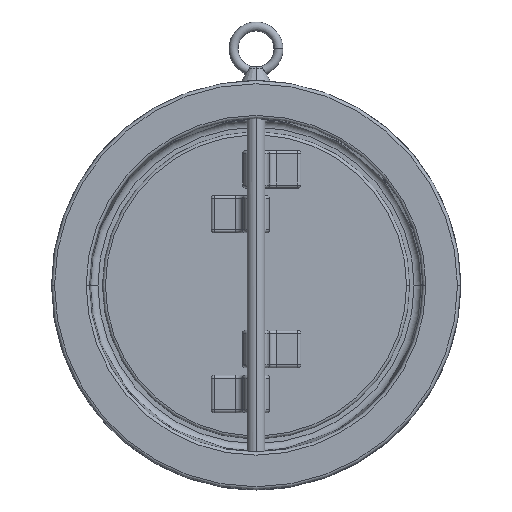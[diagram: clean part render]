
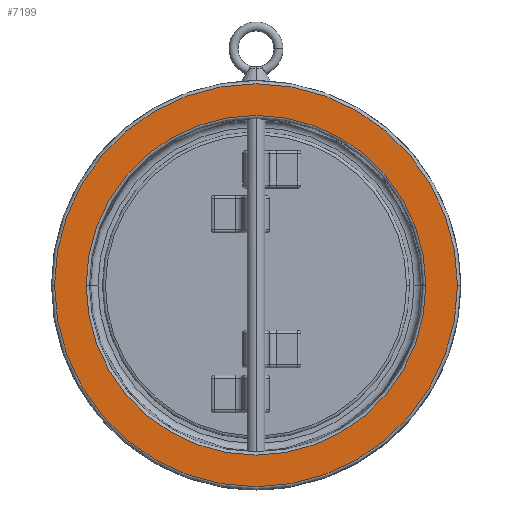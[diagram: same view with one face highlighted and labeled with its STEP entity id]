
A CAD part, top view. The second image highlights one B-rep face of the part: STEP entity #7199.
In plain terms, the highlighted planar face has unit normal (0, 0, 1).
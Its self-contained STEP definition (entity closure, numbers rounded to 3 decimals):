
#64 = EDGE_LOOP ( 'NONE', ( #2435, #7381 ) ) ;
#187 = DIRECTION ( 'NONE',  ( 1., 0., 0. ) ) ;
#269 = CARTESIAN_POINT ( 'NONE',  ( 0., 0., 44.5 ) ) ;
#834 = AXIS2_PLACEMENT_3D ( 'NONE', #1169, #3407, #187 ) ;
#1169 = CARTESIAN_POINT ( 'NONE',  ( 0., 0., 44.5 ) ) ;
#1681 = FACE_OUTER_BOUND ( 'NONE', #64, .T. ) ;
#1851 = EDGE_CURVE ( 'NONE', #10750, #7251, #7306, .T. ) ;
#1892 = CARTESIAN_POINT ( 'NONE',  ( 113.381, 0., 44.5 ) ) ;
#2145 = VERTEX_POINT ( 'NONE', #13586 ) ;
#2215 = ORIENTED_EDGE ( 'NONE', *, *, #11628, .T. ) ;
#2435 = ORIENTED_EDGE ( 'NONE', *, *, #6184, .T. ) ;
#2478 = DIRECTION ( 'NONE',  ( 1., 0., 0. ) ) ;
#3135 = CARTESIAN_POINT ( 'NONE',  ( 0., 0., 44.5 ) ) ;
#3145 = AXIS2_PLACEMENT_3D ( 'NONE', #269, #12756, #7825 ) ;
#3407 = DIRECTION ( 'NONE',  ( 0., 0., -1. ) ) ;
#3532 = DIRECTION ( 'NONE',  ( 0., 0., 1. ) ) ;
#4402 = DIRECTION ( 'NONE',  ( 1., 0., 0. ) ) ;
#5137 = CARTESIAN_POINT ( 'NONE',  ( 134.5, 0., 44.5 ) ) ;
#6041 = FACE_BOUND ( 'NONE', #9101, .T. ) ;
#6184 = EDGE_CURVE ( 'NONE', #6692, #2145, #7395, .T. ) ;
#6692 = VERTEX_POINT ( 'NONE', #5137 ) ;
#6744 = AXIS2_PLACEMENT_3D ( 'NONE', #12552, #7227, #8351 ) ;
#7199 = ADVANCED_FACE ( 'NONE', ( #6041, #1681 ), #11362, .T. ) ;
#7227 = DIRECTION ( 'NONE',  ( 0., 0., 1. ) ) ;
#7251 = VERTEX_POINT ( 'NONE', #1892 ) ;
#7306 = CIRCLE ( 'NONE', #834, 113.381 ) ;
#7381 = ORIENTED_EDGE ( 'NONE', *, *, #10042, .T. ) ;
#7395 = CIRCLE ( 'NONE', #3145, 134.5 ) ;
#7411 = DIRECTION ( 'NONE',  ( 0., 0., -1. ) ) ;
#7825 = DIRECTION ( 'NONE',  ( 1., 0., 0. ) ) ;
#8351 = DIRECTION ( 'NONE',  ( 1., 0., 0. ) ) ;
#8865 = CARTESIAN_POINT ( 'NONE',  ( 0., 0., 44.5 ) ) ;
#9101 = EDGE_LOOP ( 'NONE', ( #2215, #9109 ) ) ;
#9109 = ORIENTED_EDGE ( 'NONE', *, *, #1851, .T. ) ;
#9299 = CARTESIAN_POINT ( 'NONE',  ( -113.381, 0., 44.5 ) ) ;
#10042 = EDGE_CURVE ( 'NONE', #2145, #6692, #10359, .T. ) ;
#10359 = CIRCLE ( 'NONE', #12587, 134.5 ) ;
#10548 = AXIS2_PLACEMENT_3D ( 'NONE', #3135, #7411, #4402 ) ;
#10750 = VERTEX_POINT ( 'NONE', #9299 ) ;
#11362 = PLANE ( 'NONE',  #6744 ) ;
#11628 = EDGE_CURVE ( 'NONE', #7251, #10750, #11865, .T. ) ;
#11865 = CIRCLE ( 'NONE', #10548, 113.381 ) ;
#12552 = CARTESIAN_POINT ( 'NONE',  ( 0., 0., 44.5 ) ) ;
#12587 = AXIS2_PLACEMENT_3D ( 'NONE', #8865, #3532, #2478 ) ;
#12756 = DIRECTION ( 'NONE',  ( 0., 0., 1. ) ) ;
#13586 = CARTESIAN_POINT ( 'NONE',  ( -134.5, 0., 44.5 ) ) ;
